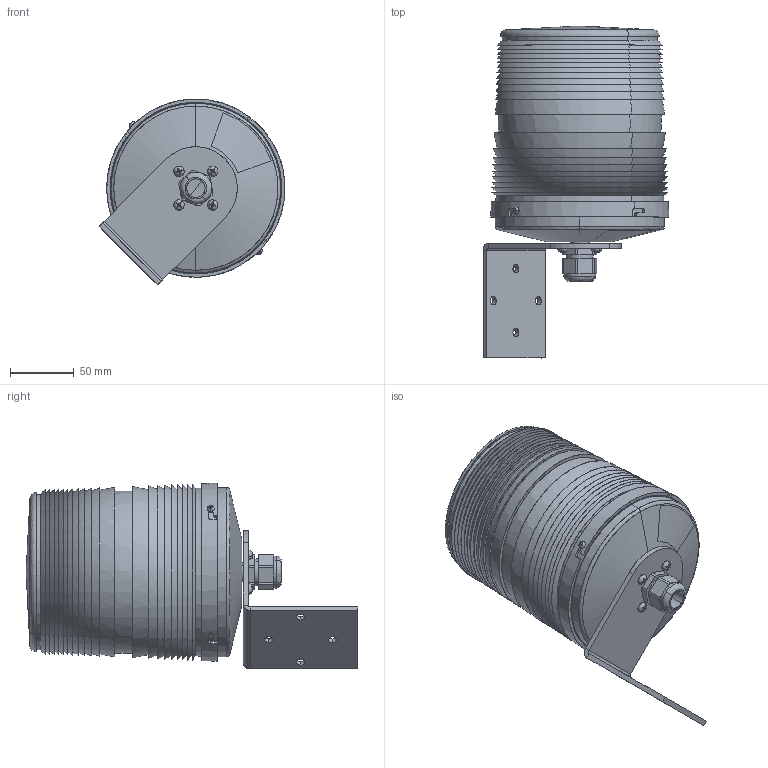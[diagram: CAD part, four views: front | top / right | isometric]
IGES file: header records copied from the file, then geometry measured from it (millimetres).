
Start section: SolidWorks IGES file using analytic representation for surfaces
Global section: file name: C:\PDMWTemp\PMF 2015-bracket.IGS; native system: SolidWorks 2010; preprocessor: SolidWorks 2010; author: MMark; date: 101110.142819; units: millimetre
Bounding box: 145.99 x 260.5 x 145.99 mm (x, y, z)
Surface area: 167060.7 mm2 (no closed solid volume)
Topology: 0 solids, 0 shells, 249 faces, 5557 edges, 5555 vertices
Faces by surface type: bspline 183, revolution 66
